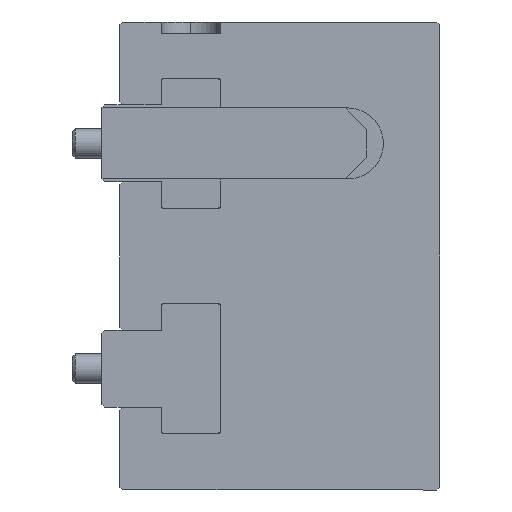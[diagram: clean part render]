
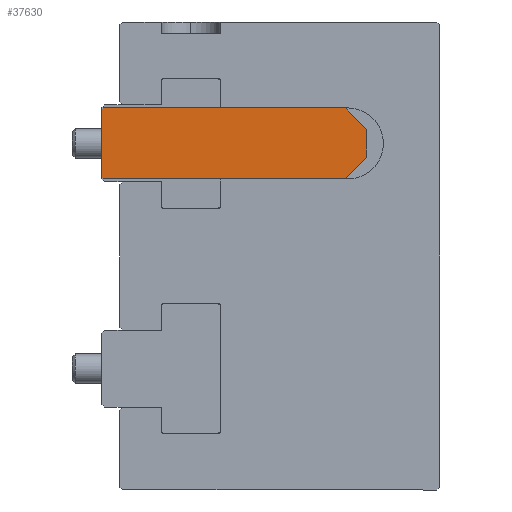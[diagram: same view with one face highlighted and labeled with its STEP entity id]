
A CAD part, left-side view. The second image highlights one B-rep face of the part: STEP entity #37630.
In plain terms, the highlighted planar face has unit normal (-1, 0, 0).
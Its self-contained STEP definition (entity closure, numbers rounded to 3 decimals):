
#1076 = LINE ( 'NONE', #46167, #20290 ) ;
#1171 = DIRECTION ( 'NONE',  ( 0., -0.707, 0.707 ) ) ;
#1716 = PLANE ( 'NONE',  #29131 ) ;
#2718 = ORIENTED_EDGE ( 'NONE', *, *, #20645, .T. ) ;
#2822 = CARTESIAN_POINT ( 'NONE',  ( -108., -24.73, 2.3 ) ) ;
#4260 = CARTESIAN_POINT ( 'NONE',  ( -108., -21.03, -6. ) ) ;
#4746 = LINE ( 'NONE', #10938, #22863 ) ;
#4934 = CARTESIAN_POINT ( 'NONE',  ( -108., 19.77, -6. ) ) ;
#5133 = DIRECTION ( 'NONE',  ( 0., -0.707, -0.707 ) ) ;
#6062 = VERTEX_POINT ( 'NONE', #44394 ) ;
#6520 = VERTEX_POINT ( 'NONE', #11359 ) ;
#8455 = LINE ( 'NONE', #16398, #36111 ) ;
#8948 = CARTESIAN_POINT ( 'NONE',  ( -108., 25.77, 0. ) ) ;
#8974 = CARTESIAN_POINT ( 'NONE',  ( -108., -24.73, -2.3 ) ) ;
#9070 = VERTEX_POINT ( 'NONE', #11615 ) ;
#10819 = EDGE_CURVE ( 'NONE', #9070, #28322, #25995, .T. ) ;
#10938 = CARTESIAN_POINT ( 'NONE',  ( -108., 19.999, 5.771 ) ) ;
#11069 = VERTEX_POINT ( 'NONE', #4934 ) ;
#11359 = CARTESIAN_POINT ( 'NONE',  ( -108., -21.03, -6. ) ) ;
#11615 = CARTESIAN_POINT ( 'NONE',  ( -108., -24.73, 2.3 ) ) ;
#12006 = VECTOR ( 'NONE', #28097, 1000. ) ;
#12543 = EDGE_CURVE ( 'NONE', #6520, #36361, #44024, .T. ) ;
#12580 = DIRECTION ( 'NONE',  ( 0., 0., 1. ) ) ;
#14579 = DIRECTION ( 'NONE',  ( 0., 0., -1. ) ) ;
#14820 = ORIENTED_EDGE ( 'NONE', *, *, #32378, .T. ) ;
#16398 = CARTESIAN_POINT ( 'NONE',  ( -108., 19.77, -6. ) ) ;
#17139 = DIRECTION ( 'NONE',  ( 0., 0.707, 0.707 ) ) ;
#17482 = VECTOR ( 'NONE', #1171, 1000. ) ;
#18236 = CARTESIAN_POINT ( 'NONE',  ( -108., 19.999, 5.771 ) ) ;
#19510 = ORIENTED_EDGE ( 'NONE', *, *, #10819, .T. ) ;
#20169 = ORIENTED_EDGE ( 'NONE', *, *, #45635, .T. ) ;
#20290 = VECTOR ( 'NONE', #24491, 1000. ) ;
#20474 = LINE ( 'NONE', #2822, #12006 ) ;
#20509 = FACE_OUTER_BOUND ( 'NONE', #24687, .T. ) ;
#20645 = EDGE_CURVE ( 'NONE', #6062, #11069, #26366, .T. ) ;
#21603 = CARTESIAN_POINT ( 'NONE',  ( -108., 19.77, 6. ) ) ;
#21684 = LINE ( 'NONE', #43982, #30142 ) ;
#22408 = ORIENTED_EDGE ( 'NONE', *, *, #12543, .T. ) ;
#22863 = VECTOR ( 'NONE', #14579, 1000. ) ;
#24491 = DIRECTION ( 'NONE',  ( 0., 1., 0. ) ) ;
#24687 = EDGE_LOOP ( 'NONE', ( #19510, #20169, #27968, #36934, #2718, #14820, #22408, #38382 ) ) ;
#25995 = LINE ( 'NONE', #35118, #27158 ) ;
#26366 = LINE ( 'NONE', #44772, #35952 ) ;
#27158 = VECTOR ( 'NONE', #17139, 1000. ) ;
#27256 = DIRECTION ( 'NONE',  ( 0., -1., 0. ) ) ;
#27968 = ORIENTED_EDGE ( 'NONE', *, *, #36714, .T. ) ;
#28097 = DIRECTION ( 'NONE',  ( 0., 0., 1. ) ) ;
#28322 = VERTEX_POINT ( 'NONE', #44853 ) ;
#29131 = AXIS2_PLACEMENT_3D ( 'NONE', #8948, #34183, #12580 ) ;
#30142 = VECTOR ( 'NONE', #33065, 1000. ) ;
#32378 = EDGE_CURVE ( 'NONE', #11069, #6520, #8455, .T. ) ;
#33065 = DIRECTION ( 'NONE',  ( 0., 0.707, -0.707 ) ) ;
#34183 = DIRECTION ( 'NONE',  ( -1., 0., 0. ) ) ;
#35118 = CARTESIAN_POINT ( 'NONE',  ( -108., -24.73, 2.3 ) ) ;
#35736 = EDGE_CURVE ( 'NONE', #45006, #6062, #4746, .T. ) ;
#35952 = VECTOR ( 'NONE', #5133, 1000. ) ;
#36111 = VECTOR ( 'NONE', #27256, 1000. ) ;
#36361 = VERTEX_POINT ( 'NONE', #8974 ) ;
#36714 = EDGE_CURVE ( 'NONE', #38835, #45006, #21684, .T. ) ;
#36934 = ORIENTED_EDGE ( 'NONE', *, *, #35736, .T. ) ;
#37630 = ADVANCED_FACE ( 'NONE', ( #20509 ), #1716, .T. ) ;
#38382 = ORIENTED_EDGE ( 'NONE', *, *, #38629, .T. ) ;
#38629 = EDGE_CURVE ( 'NONE', #36361, #9070, #20474, .T. ) ;
#38835 = VERTEX_POINT ( 'NONE', #21603 ) ;
#43982 = CARTESIAN_POINT ( 'NONE',  ( -108., 19.999, 5.771 ) ) ;
#44024 = LINE ( 'NONE', #4260, #17482 ) ;
#44394 = CARTESIAN_POINT ( 'NONE',  ( -108., 19.999, -5.771 ) ) ;
#44772 = CARTESIAN_POINT ( 'NONE',  ( -108., 19.999, -5.771 ) ) ;
#44853 = CARTESIAN_POINT ( 'NONE',  ( -108., -21.03, 6. ) ) ;
#45006 = VERTEX_POINT ( 'NONE', #18236 ) ;
#45635 = EDGE_CURVE ( 'NONE', #28322, #38835, #1076, .T. ) ;
#46167 = CARTESIAN_POINT ( 'NONE',  ( -108., 19.77, 6. ) ) ;
